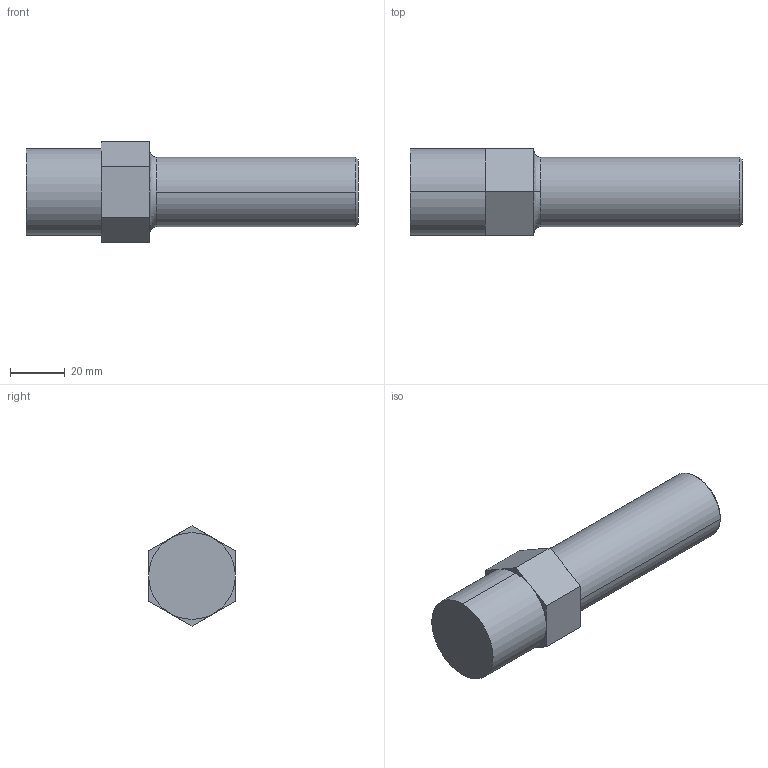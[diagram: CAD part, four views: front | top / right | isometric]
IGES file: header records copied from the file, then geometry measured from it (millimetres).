
Start section: SolidWorks IGES file using analytic representation for surfaces
Global section: file name: S:\Product Visuals\FILES FOR PUBLICATION\SOLID MODELS FOR PUBLICATION\60\front-mount-liquid-fitting\tubeout\Fitting Tubeout 16.IGS; native system: SolidWorks 2012; preprocessor: SolidWorks 2012; author: rachel.dressel; date: 121112.105937; units: inch
Bounding box: 121.56 x 31.75 x 36.66 mm (x, y, z)
Volume: 76050.6 mm3; surface area: 12417.1 mm2
Topology: 1 solids, 1 shells, 23 faces, 52 edges, 32 vertices
Faces by surface type: plane 15, revolution 6, bspline 2
